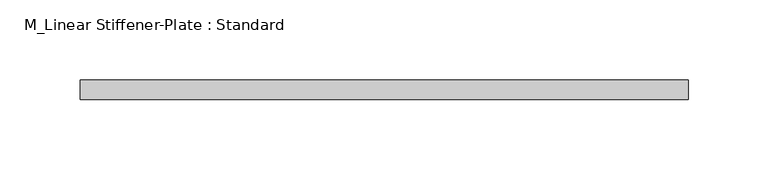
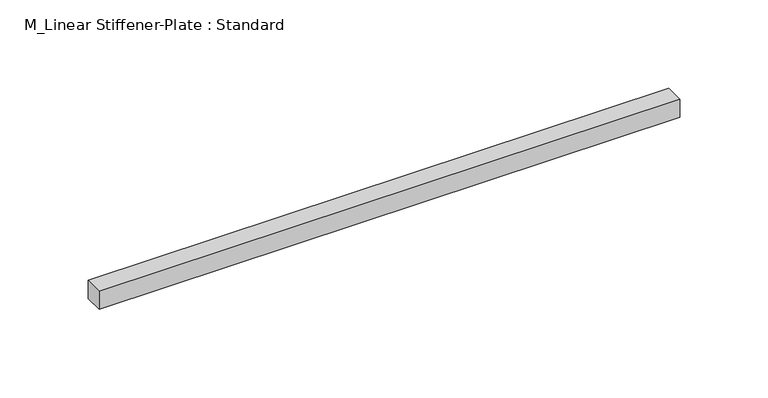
"""IFC4 building model written with IfcOpenShell, lengths in millimetres: plate geometry, M_Linear Stiffener-Plate : Standard."""

from ifc_helpers import new_model, si_unit, origin, origin_with_axes, place, context, project, spatial, polyline, outline, extrude, source, transform, mapped, element, save


def m_linear_stiffener_plate_standard_2246eb78(model_context):
    return source(origin(), model_context, "Body", "SweptSolid", [
        extrude(outline(polyline([(0.0, -12.5), (0.0, 0.0), (380.0, 0.0), (380.0, -12.5), (0.0, -12.5)])), origin_with_axes(), (0.0, 0.0, 1.0), 12.5),
    ])


if __name__ == "__main__":
    model = new_model("IFC4")
    model_context = context("Model", 3, world=origin())
    ifc_project = project(units=[si_unit("LENGTHUNIT", "METRE", prefix="MILLI")], contexts=[model_context])
    site = spatial("IfcSite", under=ifc_project)
    building = spatial("IfcBuilding", under=site)
    placement = place(None, origin())
    m_linear_stiffener_plate_standard_shape = m_linear_stiffener_plate_standard_2246eb78(model_context)
    element("IfcPlate", 1, ObjectType="M_Linear Stiffener-Plate : Standard", at=placement, inside=building, context=model_context, shape_type="MappedRepresentation", body=[
        mapped(m_linear_stiffener_plate_standard_shape, transform((0.0, 0.0, 0.0), x_axis=(1.0, 0.0, 0.0), y_axis=(0.0, 1.0, 0.0), z_axis=(0.0, 0.0, 1.0))),
    ])
    save(model, "model.ifc")
